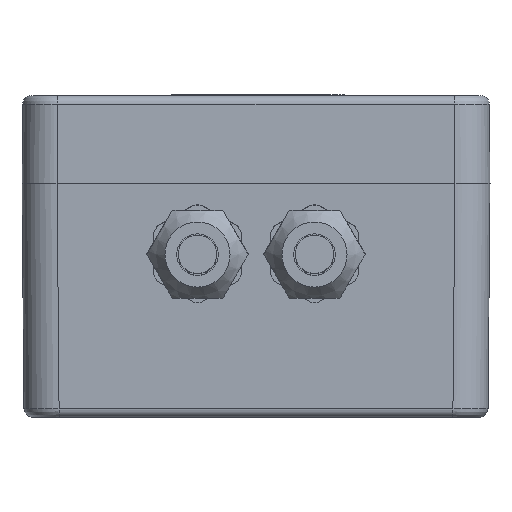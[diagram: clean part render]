
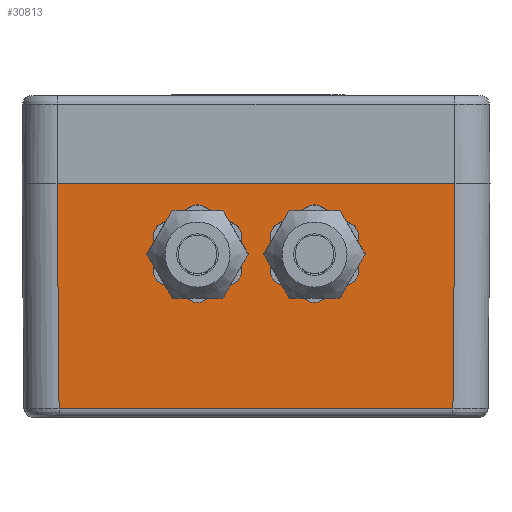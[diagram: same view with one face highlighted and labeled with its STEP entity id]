
A CAD part, left-side view. The second image highlights one B-rep face of the part: STEP entity #30813.
In plain terms, the highlighted planar face has unit normal (-1, 0, -0.009).
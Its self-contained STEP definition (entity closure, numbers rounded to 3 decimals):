
#1491=LINE('',#40965,#3621);
#1494=LINE('',#40972,#3624);
#1497=LINE('',#40997,#3627);
#1501=LINE('',#41007,#3631);
#3621=VECTOR('',#34564,1000.);
#3624=VECTOR('',#34571,1000.);
#3627=VECTOR('',#34600,1000.);
#3631=VECTOR('',#34610,1000.);
#6535=ORIENTED_EDGE('',*,*,#12768,.T.);
#6536=ORIENTED_EDGE('',*,*,#12769,.T.);
#6537=ORIENTED_EDGE('',*,*,#12617,.F.);
#6538=ORIENTED_EDGE('',*,*,#12621,.F.);
#6539=ORIENTED_EDGE('',*,*,#12638,.F.);
#6540=ORIENTED_EDGE('',*,*,#12633,.F.);
#12617=EDGE_CURVE('',#15844,#15847,#1491,.T.);
#12621=EDGE_CURVE('',#15849,#15844,#1494,.T.);
#12633=EDGE_CURVE('',#15847,#15859,#1497,.T.);
#12638=EDGE_CURVE('',#15859,#15849,#1501,.T.);
#12768=EDGE_CURVE('',#15949,#15949,#18058,.T.);
#12769=EDGE_CURVE('',#15950,#15950,#18059,.T.);
#15844=VERTEX_POINT('',#40940);
#15847=VERTEX_POINT('',#40961);
#15849=VERTEX_POINT('',#40971);
#15859=VERTEX_POINT('',#40998);
#15949=VERTEX_POINT('',#41332);
#15950=VERTEX_POINT('',#41334);
#18058=CIRCLE('',#32455,5.188);
#18059=CIRCLE('',#32456,5.188);
#18704=EDGE_LOOP('',(#6535));
#18705=EDGE_LOOP('',(#6536));
#18706=EDGE_LOOP('',(#6537,#6538,#6539,#6540));
#20400=FACE_BOUND('',#18704,.T.);
#20401=FACE_BOUND('',#18705,.T.);
#20402=FACE_BOUND('',#18706,.T.);
#21858=PLANE('',#32454);
#30813=ADVANCED_FACE('',(#20400,#20401,#20402),#21858,.T.);
#32454=AXIS2_PLACEMENT_3D('',#41330,#34951,#34952);
#32455=AXIS2_PLACEMENT_3D('',#41331,#34953,#34954);
#32456=AXIS2_PLACEMENT_3D('',#41333,#34955,#34956);
#34564=DIRECTION('',(0.,1.,0.));
#34571=DIRECTION('',(0.009,0.009,-1.));
#34600=DIRECTION('',(-0.009,0.009,1.));
#34610=DIRECTION('',(0.,-1.,0.));
#34951=DIRECTION('',(-1.,0.,-0.009));
#34952=DIRECTION('',(-0.009,0.,1.));
#34953=DIRECTION('',(1.,0.,0.009));
#34954=DIRECTION('',(-0.009,0.,1.));
#34955=DIRECTION('',(1.,0.,0.009));
#34956=DIRECTION('',(-0.009,0.,1.));
#40940=CARTESIAN_POINT('',(0.336,-13.378,-38.513));
#40961=CARTESIAN_POINT('',(0.336,53.95,-38.513));
#40965=CARTESIAN_POINT('',(0.336,-13.378,-38.513));
#40971=CARTESIAN_POINT('',(0.,-13.714,0.));
#40972=CARTESIAN_POINT('',(0.,-13.714,0.));
#40997=CARTESIAN_POINT('',(0.336,53.95,-38.513));
#40998=CARTESIAN_POINT('',(0.,54.286,0.));
#41007=CARTESIAN_POINT('',(0.,54.286,0.));
#41330=CARTESIAN_POINT('',(0.,60.286,0.));
#41331=CARTESIAN_POINT('',(0.105,10.286,-12.));
#41332=CARTESIAN_POINT('',(0.059,10.286,-6.812));
#41333=CARTESIAN_POINT('',(0.105,30.286,-12.));
#41334=CARTESIAN_POINT('',(0.059,30.286,-6.812));
